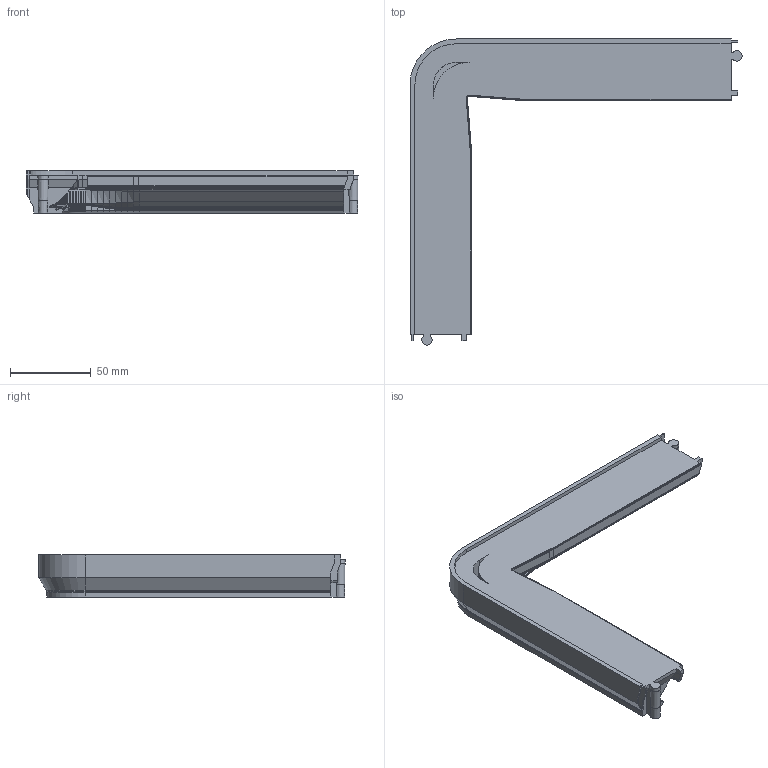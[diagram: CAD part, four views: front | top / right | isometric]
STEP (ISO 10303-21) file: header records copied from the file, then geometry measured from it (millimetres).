
FILE_DESCRIPTION(('Open CASCADE Model'),'2;1');
FILE_NAME('Open CASCADE Shape Model','2026-10-24T07:18:37',('Author'),( 'Open CASCADE'),'Open CASCADE STEP processor 8.0','build123d', 'Unknown');
FILE_SCHEMA(('AUTOMOTIVE_DESIGN { 1 0 10303 214 1 1 1 1 }'));
Products named in the file (1): SOLID
Bounding box: 205.18 x 189.18 x 26 mm (x, y, z)
Volume: 208203.9 mm3; surface area: 52345.6 mm2
Topology: 1 solids, 1 shells, 2421 faces, 5237 edges, 2819 vertices
Faces by surface type: bspline 1916, plane 492, cone 8, cylinder 5
Entity records: 126155 total; most frequent: CARTESIAN_POINT 32934, DIRECTION 11812, LINE 10759, VECTOR 10759, ORIENTED_EDGE 10474, PCURVE 10474, DEFINITIONAL_REPRESENTATION 10474, EDGE_CURVE 5237
